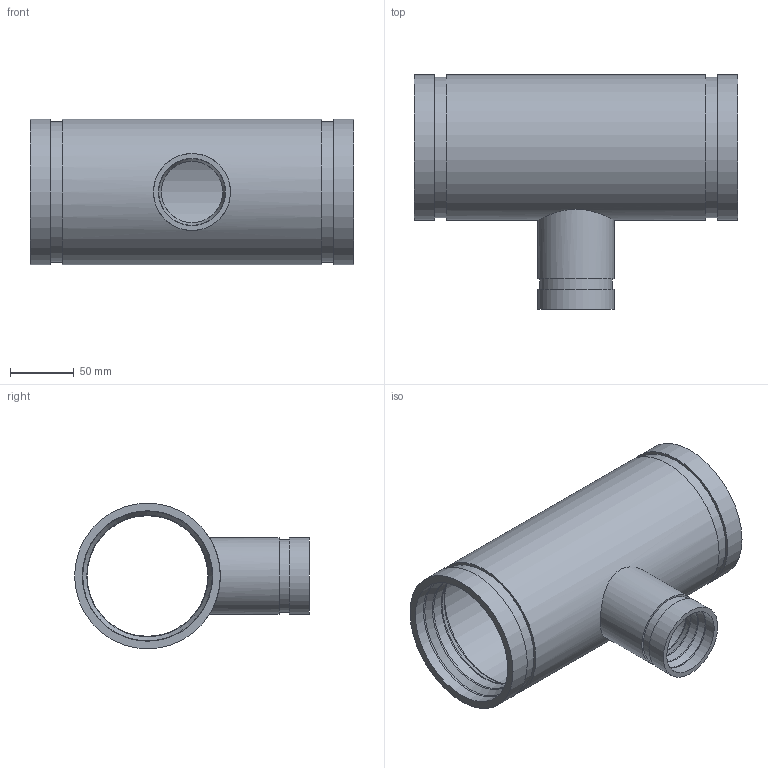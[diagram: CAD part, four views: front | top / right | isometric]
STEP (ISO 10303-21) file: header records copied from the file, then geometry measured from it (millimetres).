
FILE_DESCRIPTION(/* description */ ('VIC REDUCING TEE No 425H-SS','CAx-IF Rec.Pracs.---Representation and Presentation of Product Manufacturing Information (PMI)---4.0---2014-10-13'),/* implementation_level */ '2;1');
FILE_NAME(/* name */ 'C:\Users\kkamble\AppData\Roaming\Autodesk\ApplicationPlugins\Back Up\Victaulic_SS-OGS_Tee Reducing_Sched 40S_No 425H SS (OGS)\Victaulic_SS-OGS_Tee Reducing_Sched 40S_No 425H SS (OGS)_04.0x02.0 (100x50).stp',/* time_stamp */ '2020-08-27T17:19:50+06:00',/* author */ ('CORINNE GRAY'),/* organization */ ('Victaulic'),/* preprocessor_version */ 'ST-DEVELOPER v17.2',/* originating_system */ 'Autodesk Inventor 2019',/* authorisation */ '');
FILE_SCHEMA (('AP242_MANAGED_MODEL_BASED_3D_ENGINEERING_MIM_LF { 1 0 10303 442 1 1 4 }'));
Length unit declared in the file: inch
Products named in the file (1): 425H SS-04.0x02.0
Bounding box: 254 x 184.15 x 114.3 mm (x, y, z)
Volume: 579975.2 mm3; surface area: 203198.5 mm2
Topology: 1 solids, 1 shells, 43 faces, 134 edges, 100 vertices
Faces by surface type: cylinder 16, torus 12, plane 9, cone 6
Full cylindrical faces by diameter (mm): 48.006 x1, 52.578 x2, 57.15 x1, 60.325 x2, 94.64 x2, 102.362 x3, 110.084 x2, 114.3 x3
Entity records: 1919 total; most frequent: CARTESIAN_POINT 427, DIRECTION 352, ORIENTED_EDGE 268, AXIS2_PLACEMENT_3D 165, EDGE_CURVE 134, CIRCLE 108, VERTEX_POINT 100, EDGE_LOOP 54
